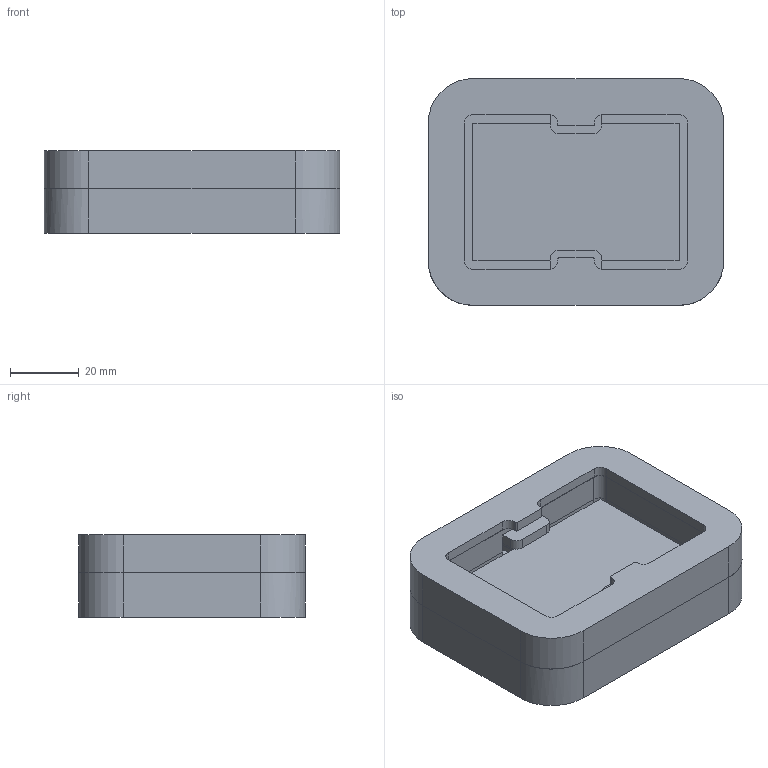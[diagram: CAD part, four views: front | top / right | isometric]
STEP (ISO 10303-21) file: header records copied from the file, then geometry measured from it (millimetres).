
FILE_DESCRIPTION(('Open CASCADE Model'),'2;1');
FILE_NAME('Open CASCADE Shape Model','2026-09-20T04:40:22',('Author'),( 'Open CASCADE'),'Open CASCADE STEP processor 8.0','Open CASCADE 8.0' ,'Unknown');
FILE_SCHEMA(('AP242_MANAGED_MODEL_BASED_3D_ENGINEERING_MIM_LF {1 0 10303 442 1 1 4 }' ));
Length unit declared in the file: millimetre
Products named in the file (13): case_bottom; case_top; case_plate; case_gasket_gasket_1_lower; case_gasket_gasket_1_upper; case_gasket_gasket_4_lower; case_gasket_gasket_4_upper; case_screws_case_mount_1; case_screws_case_mount_3; case_screws_case_mount_4; case_screws_case_mount_6; case_pcb; case_components_board_case_3ad64c81_e34f_4eb2_8ac8_240d5088582f
Bounding box: 86 x 66 x 24 mm (x, y, z)
Volume: 75527.1 mm3; surface area: 41780.3 mm2
Topology: 13 solids, 13 shells, 206 faces, 481 edges, 315 vertices
Faces by surface type: plane 142, cylinder 64
Full cylindrical faces by diameter (mm): 2.5 x4, 3 x4, 3.4 x4, 5.5 x4, 6.2 x4
Entity records: 12415 total; most frequent: CARTESIAN_POINT 2109, DIRECTION 1963, LINE 1183, VECTOR 1183, ORIENTED_EDGE 962, PCURVE 962, DEFINITIONAL_REPRESENTATION 962, EDGE_CURVE 481
